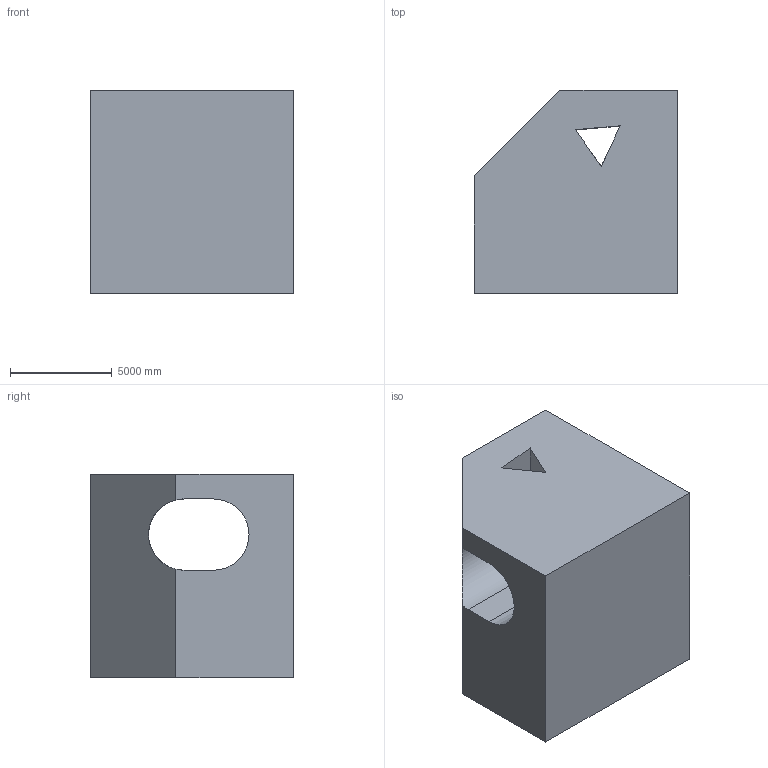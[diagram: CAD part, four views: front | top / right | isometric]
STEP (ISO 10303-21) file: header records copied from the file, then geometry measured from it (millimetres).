
FILE_DESCRIPTION (( 'STEP AP203' ), '1' );
FILE_NAME ('315.STEP', '2022-07-28T14:18:42', ( 'user' ), ( '' ), 'SwSTEP 2.0', 'SolidWorks 2021', '' );
FILE_SCHEMA (( 'CONFIG_CONTROL_DESIGN' ));
Length unit declared in the file: centimetre
Products named in the file (1): 315
Bounding box: 10000 x 10000 x 10000 mm (x, y, z)
Volume: 731781350028.8 mm3; surface area: 728642585.3 mm2
Topology: 1 solids, 1 shells, 19 faces, 63 edges, 42 vertices
Faces by surface type: plane 17, cylinder 2
Entity records: 775 total; most frequent: CARTESIAN_POINT 134, ORIENTED_EDGE 126, DIRECTION 105, EDGE_CURVE 63, LINE 55, VECTOR 55, VERTEX_POINT 42, AXIS2_PLACEMENT_3D 25
